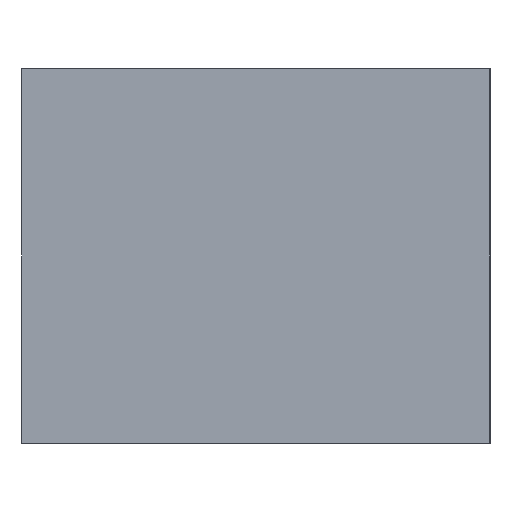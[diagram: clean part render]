
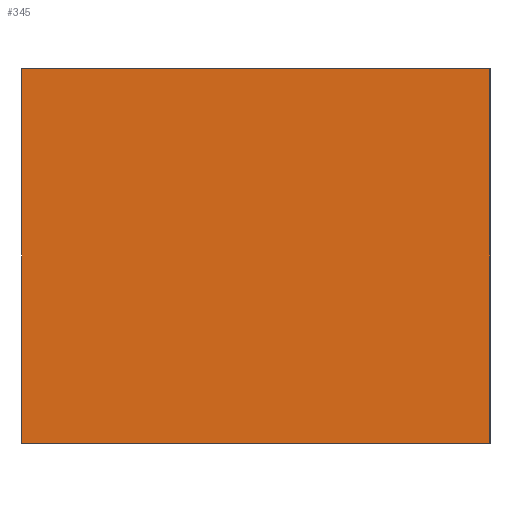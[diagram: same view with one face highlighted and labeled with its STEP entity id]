
A CAD part, left-side view. The second image highlights one B-rep face of the part: STEP entity #345.
In plain terms, the highlighted planar face has unit normal (-1, 0, 0).
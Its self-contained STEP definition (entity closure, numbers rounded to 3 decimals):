
#171=CARTESIAN_POINT('',(-1.6,-1.25,-0.));
#172=VERTEX_POINT('',#171);
#180=CARTESIAN_POINT('',(-1.6,1.25,-0.));
#181=VERTEX_POINT('',#180);
#182=CARTESIAN_POINT('',(-1.6,1.25,-0.));
#183=CARTESIAN_POINT('',(-1.6,-1.25,0.));
#184=B_SPLINE_CURVE_WITH_KNOTS('',1,(#182,#183),.UNSPECIFIED.,.F.,.F.,(2,2),(0.,1.),.UNSPECIFIED.);
#185=EDGE_CURVE('',#181,#172,#184,.T.);
#280=CARTESIAN_POINT('',(-1.6,1.25,2.));
#281=VERTEX_POINT('',#280);
#282=CARTESIAN_POINT('',(-1.6,1.25,-0.));
#283=CARTESIAN_POINT('',(-1.6,1.25,2.));
#284=B_SPLINE_CURVE_WITH_KNOTS('',1,(#282,#283),.UNSPECIFIED.,.F.,.F.,(2,2),(0.,1.),.UNSPECIFIED.);
#285=EDGE_CURVE('',#181,#281,#284,.T.);
#308=CARTESIAN_POINT('',(-1.6,-1.25,2.));
#309=VERTEX_POINT('',#308);
#310=CARTESIAN_POINT('',(-1.6,1.25,2.));
#311=CARTESIAN_POINT('',(-1.6,-1.25,2.));
#312=B_SPLINE_CURVE_WITH_KNOTS('',1,(#310,#311),.UNSPECIFIED.,.F.,.F.,(2,2),(0.,1.),.UNSPECIFIED.);
#313=EDGE_CURVE('',#281,#309,#312,.T.);
#330=CARTESIAN_POINT('',(-1.6,0.,1.));
#331=DIRECTION('',(-1.,0.,0.));
#332=DIRECTION('',(0.,0.781,-0.625));
#333=AXIS2_PLACEMENT_3D('',#330,#331,#332);
#334=PLANE('',#333);
#335=ORIENTED_EDGE('',*,*,#313,.F.);
#336=ORIENTED_EDGE('',*,*,#285,.F.);
#337=ORIENTED_EDGE('',*,*,#185,.T.);
#338=CARTESIAN_POINT('',(-1.6,-1.25,0.));
#339=CARTESIAN_POINT('',(-1.6,-1.25,2.));
#340=B_SPLINE_CURVE_WITH_KNOTS('',1,(#338,#339),.UNSPECIFIED.,.F.,.F.,(2,2),(0.,1.),.UNSPECIFIED.);
#341=EDGE_CURVE('',#172,#309,#340,.T.);
#342=ORIENTED_EDGE('',*,*,#341,.T.);
#343=EDGE_LOOP('',(#335,#336,#337,#342));
#344=FACE_BOUND('',#343,.T.);
#345=ADVANCED_FACE(' DE      223',(#344),#334,.T.);
